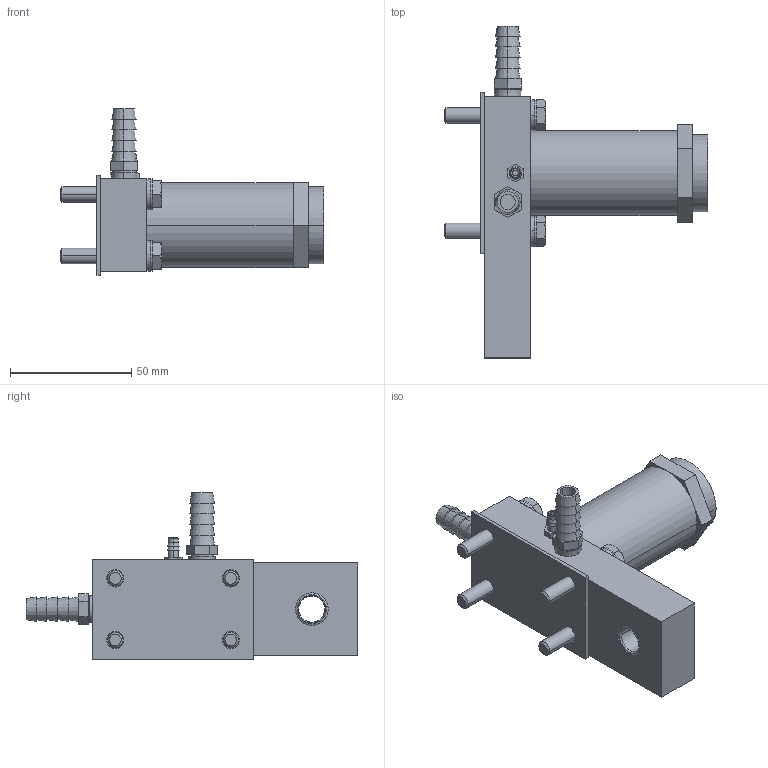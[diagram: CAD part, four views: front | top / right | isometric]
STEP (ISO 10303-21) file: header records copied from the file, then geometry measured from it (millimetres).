
FILE_DESCRIPTION((''),'2;1');
FILE_NAME('XJ3_ASM','2017-08-24T',('jennifer.elliott'),('CenterLine (Windsor) Ltd - Automation Components Division'),'PRO/ENGINEER BY PARAMETRIC TECHNOLOGY CORPORATION, 2015030','PRO/ENGINEER BY PARAMETRIC TECHNOLOGY CORPORATION, 2015030','');
FILE_SCHEMA(('AUTOMOTIVE_DESIGN { 1 0 10303 214 1 1 1 1 }'));
Length unit declared in the file: inch
Products named in the file (22): PRT1285; PRT1286; PRT1287; PRT1288; PRT1289; PRT1290; PRT1291; PRT1292; PRT1293; PRT1294; PRT1295; PRT1296; PRT1297; PRT1298; PRT1299; PRT1300; PRT1301; PRT1302; PRT1303; PRT1304; PRT1305; XJ3_ASM
Assembly tree (21 placements, depth 2):
  XJ3_ASM
    PRT1285
    PRT1286
    PRT1287
    PRT1288
    PRT1289
    PRT1290
    PRT1291
    PRT1292
    PRT1293
    PRT1294
    PRT1295
    PRT1296
    PRT1297
    PRT1298
    PRT1299
    PRT1300
    PRT1301
    PRT1302
    PRT1303
    PRT1304
    PRT1305
Bounding box: 108.78 x 136.91 x 68.64 mm (x, y, z)
Volume: 156496.6 mm3; surface area: 49295.5 mm2
Topology: 21 solids, 21 shells, 283 faces, 606 edges, 390 vertices
Faces by surface type: plane 123, cylinder 88, cone 68, torus 4
Entity records: 9359 total; most frequent: CARTESIAN_POINT 1638, DIRECTION 1492, ORIENTED_EDGE 1212, AXIS2_PLACEMENT_3D 608, EDGE_CURVE 606, VERTEX_POINT 390, EDGE_LOOP 350, FACE_OUTER_BOUND 283
